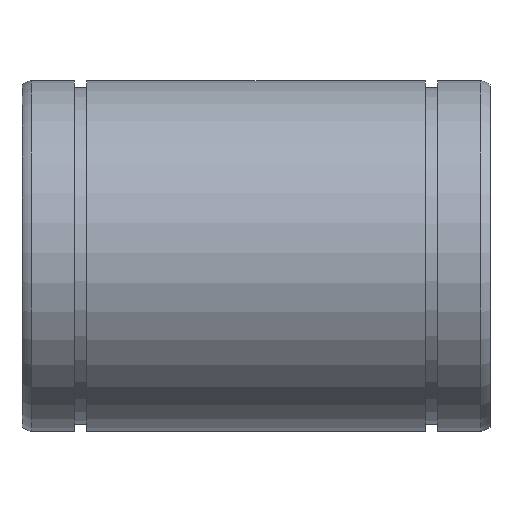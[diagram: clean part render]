
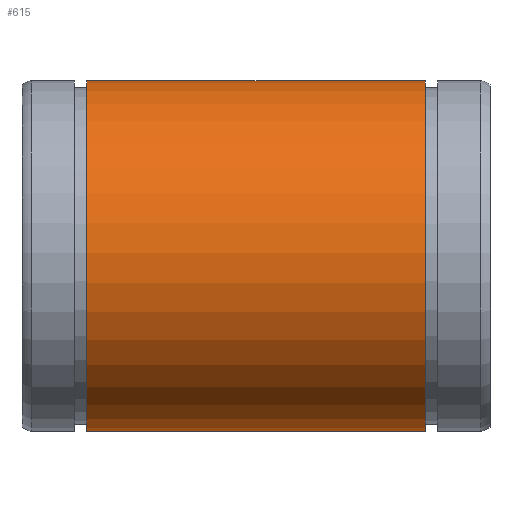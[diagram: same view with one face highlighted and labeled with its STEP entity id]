
A CAD part, front view. The second image highlights one B-rep face of the part: STEP entity #615.
In plain terms, the highlighted cylindrical face has radius 37.5 mm (diameter 75 mm), a partial arc.
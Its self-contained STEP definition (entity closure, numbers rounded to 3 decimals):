
#177=CARTESIAN_POINT('',(13.8,1.5,-37.47));
#178=VERTEX_POINT('',#177);
#185=CARTESIAN_POINT('',(86.2,1.5,-37.47));
#186=VERTEX_POINT('',#185);
#187=CARTESIAN_POINT('',(86.2,1.5,-37.47));
#188=DIRECTION('',(-1.0,0.0,0.0));
#189=VECTOR('',#188,72.4);
#190=LINE('',#187,#189);
#191=EDGE_CURVE('',#186,#178,#190,.T.);
#233=CARTESIAN_POINT('',(86.2,-1.5,-37.47));
#234=VERTEX_POINT('',#233);
#241=CARTESIAN_POINT('',(13.8,-1.5,-37.47));
#242=VERTEX_POINT('',#241);
#243=CARTESIAN_POINT('',(13.8,-1.5,-37.47));
#244=DIRECTION('',(1.0,0.0,0.0));
#245=VECTOR('',#244,72.4);
#246=LINE('',#243,#245);
#247=EDGE_CURVE('',#242,#234,#246,.T.);
#588=CARTESIAN_POINT('',(86.2,0.0,0.));
#589=DIRECTION('',(-1.0,0.0,0.0));
#590=DIRECTION('',(0.0,0.0,1.0));
#591=AXIS2_PLACEMENT_3D('',#588,#589,#590);
#592=CIRCLE('',#591,37.5);
#593=EDGE_CURVE('',#234,#186,#592,.T.);
#598=CARTESIAN_POINT('',(50.,0.0,0.));
#599=DIRECTION('',(-1.0,0.0,0.));
#600=DIRECTION('',(0.0,0.0,1.0));
#601=AXIS2_PLACEMENT_3D('',#598,#599,#600);
#602=CYLINDRICAL_SURFACE('',#601,37.5);
#603=ORIENTED_EDGE('',*,*,#247,.T.);
#604=ORIENTED_EDGE('',*,*,#593,.T.);
#605=ORIENTED_EDGE('',*,*,#191,.T.);
#606=CARTESIAN_POINT('',(13.8,0.0,0.));
#607=DIRECTION('',(-1.0,0.0,0.0));
#608=DIRECTION('',(0.0,0.0,1.0));
#609=AXIS2_PLACEMENT_3D('',#606,#607,#608);
#610=CIRCLE('',#609,37.5);
#611=EDGE_CURVE('',#242,#178,#610,.T.);
#612=ORIENTED_EDGE('',*,*,#611,.F.);
#613=EDGE_LOOP('',(#603,#604,#605,#612));
#614=FACE_OUTER_BOUND('',#613,.T.);
#615=ADVANCED_FACE('',(#614),#602,.T.);
